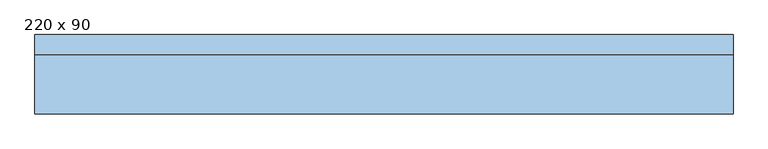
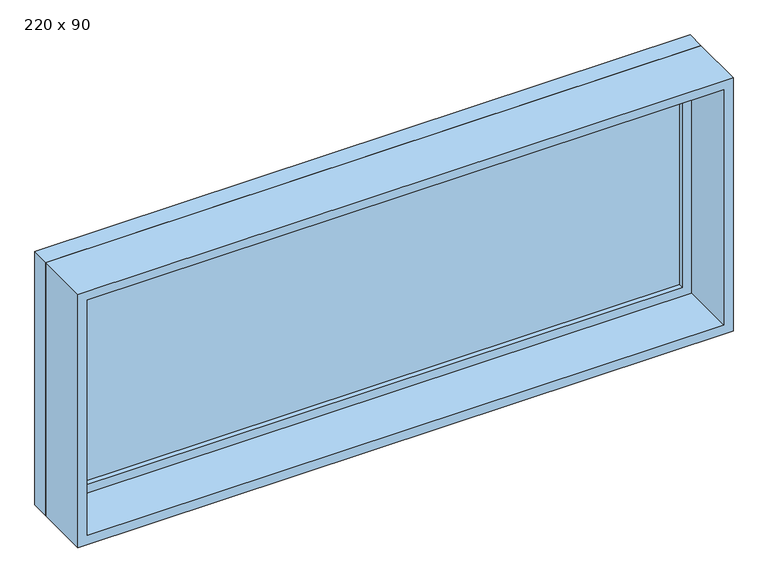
"""IFC4 building model written with IfcOpenShell, lengths in millimetres: window geometry, M_Fixado : 220 x 90."""

import ifcopenshell
import ifcopenshell.guid

model = None  # the IFC model being written
_history = None  # IfcOwnerHistory: only IFC2X3 demands one
_inside = {}  # id of a spatial element -> (the spatial element, [elements in it])
_under = {}  # id of a project, library or spatial element -> (it, [spatial elements below it])
_declared = {}  # id of a project -> (the project, [libraries it declares])
_typed = {}  # id of a type object -> (the type object, [elements of that type])
_made_of = {}  # id of a material, layer set ... -> (it, [elements and type objects made of it])


def new_model(schema):
    """Start an empty IFC model of exactly this schema.

    Asked for "IFC4X3", IfcOpenShell would pick the latest addendum, in which some entities
    have other attributes; the version numbers below select the first issue.
    IFC2X3 requires an IfcOwnerHistory on every rooted entity: one is made here for all.
    """
    global model, _history
    if schema == "IFC4X3":
        model = ifcopenshell.file(schema_version=(4, 3, 0, 0))
    else:
        model = ifcopenshell.file(schema=schema)
    _inside.clear()
    _under.clear()
    _declared.clear()
    _typed.clear()
    _made_of.clear()
    _history = None
    if model.schema == "IFC2X3":
        org = make("IfcOrganization", Name="unknown")
        user = make(
            "IfcPersonAndOrganization",
            ThePerson=make("IfcPerson", FamilyName="unknown"),
            TheOrganization=org,
        )
        app = make(
            "IfcApplication",
            ApplicationDeveloper=org,
            Version="unknown",
            ApplicationFullName="unknown",
            ApplicationIdentifier="unknown",
        )
        _history = make(
            "IfcOwnerHistory",
            OwningUser=user,
            OwningApplication=app,
            ChangeAction="ADDED",
            CreationDate=0,
        )
    return model


def make(cls, **values):
    """One entity of the class cls with the attributes given. An attribute that is None is left unset."""
    return model.create_entity(
        cls, **{name: value for name, value in values.items() if value is not None}
    )


def rooted(cls, **values):
    """An entity with a GlobalId (a new one), such as an element, a storey or a relation."""
    return make(cls, GlobalId=ifcopenshell.guid.new(), OwnerHistory=_history, **values)


def si_unit(unit_type, name, prefix=None):
    """IfcSIUnit, for example si_unit("LENGTHUNIT", "METRE", prefix="MILLI")."""
    return make("IfcSIUnit", UnitType=unit_type, Prefix=prefix, Name=name)


def assignment(units):
    """IfcUnitAssignment: the units of a project."""
    return None if units is None else make("IfcUnitAssignment", Units=units)


def point(xyz):
    """IfcCartesianPoint."""
    return None if xyz is None else make("IfcCartesianPoint", Coordinates=xyz)


def direction(xyz):
    """IfcDirection."""
    return None if xyz is None else make("IfcDirection", DirectionRatios=xyz)


def frame(location, z_axis=None, x_axis=None):
    """IfcAxis2Placement3D, a coordinate frame: its origin and axes. An axis left out is left unset."""
    return make(
        "IfcAxis2Placement3D",
        Location=point(location),
        Axis=direction(z_axis),
        RefDirection=direction(x_axis),
    )


def origin():
    """The frame at (0, 0, 0) with its axes left unset."""
    return frame((0.0, 0.0, 0.0))


def place(relative_to, where):
    """IfcLocalPlacement: puts the frame where relative to a parent placement (None: the world)."""
    return make(
        "IfcLocalPlacement", PlacementRelTo=relative_to, RelativePlacement=where
    )


def context(
    kind, dimensions, precision=None, world=None, true_north=None, identifier=None
):
    """IfcGeometricRepresentationContext, for example the 3D "Model" context."""
    return make(
        "IfcGeometricRepresentationContext",
        ContextIdentifier=identifier,
        ContextType=kind,
        CoordinateSpaceDimension=dimensions,
        Precision=precision,
        WorldCoordinateSystem=world,
        TrueNorth=true_north,
    )


def project(units=None, contexts=None):
    """IfcProject with its units and contexts."""
    return rooted(
        "IfcProject",
        Name="project",
        RepresentationContexts=contexts,
        UnitsInContext=assignment(units),
    )


def spatial(cls, under=None, at=None, **own):
    """A site, building, storey or space (cls), placed at a placement, below another one or the project."""
    s = rooted(cls, ObjectPlacement=at, **own)
    if under is not None:
        _under.setdefault(under.id(), (under, []))[1].append(s)
    return s


def polyline(points):
    """IfcPolyline through the points."""
    return make("IfcPolyline", Points=[point(p) for p in points])


def outline(outer, holes=None, kind="AREA"):
    """IfcArbitraryClosedProfileDef: a profile drawn as a closed curve; with holes, ...WithVoids."""
    if holes is None:
        return make("IfcArbitraryClosedProfileDef", ProfileType=kind, OuterCurve=outer)
    return make(
        "IfcArbitraryProfileDefWithVoids",
        ProfileType=kind,
        OuterCurve=outer,
        InnerCurves=holes,
    )


def extrude(swept, where, along, depth):
    """IfcExtrudedAreaSolid: the profile swept, set in the frame where, extruded along a direction by depth."""
    return make(
        "IfcExtrudedAreaSolid",
        SweptArea=swept,
        Position=where,
        ExtrudedDirection=direction(along),
        Depth=depth,
    )


def shape(context_of_items, identifier, shape_type, items):
    """IfcShapeRepresentation: the items that make up one representation, for example the "Body"."""
    return make(
        "IfcShapeRepresentation",
        ContextOfItems=context_of_items,
        RepresentationIdentifier=identifier,
        RepresentationType=shape_type,
        Items=items,
    )


def source(mapping_origin, context_of_items, identifier, shape_type, items):
    """IfcRepresentationMap: a shape defined once, which mapped items show again and again."""
    return make(
        "IfcRepresentationMap",
        MappingOrigin=mapping_origin,
        MappedRepresentation=shape(context_of_items, identifier, shape_type, items),
    )


def transform(
    local_origin,
    x_axis=None,
    y_axis=None,
    z_axis=None,
    scale=None,
    scale2=None,
    scale3=None,
    uniform=True,
):
    """IfcCartesianTransformationOperator3D, or its non-uniform kind. x_axis, y_axis, z_axis: its Axis1, 2, 3."""
    if uniform:
        return make(
            "IfcCartesianTransformationOperator3D",
            Axis1=direction(x_axis),
            Axis2=direction(y_axis),
            LocalOrigin=point(local_origin),
            Scale=scale,
            Axis3=direction(z_axis),
        )
    return make(
        "IfcCartesianTransformationOperator3DnonUniform",
        Axis1=direction(x_axis),
        Axis2=direction(y_axis),
        LocalOrigin=point(local_origin),
        Scale=scale,
        Axis3=direction(z_axis),
        Scale2=scale2,
        Scale3=scale3,
    )


def mapped(mapping_source, mapping_target):
    """IfcMappedItem: shows the shape of a source again, moved by a transform."""
    return make(
        "IfcMappedItem", MappingSource=mapping_source, MappingTarget=mapping_target
    )


def made_of(thing, what):
    """Note that an element or type object is made of a material, layer set ...; save() writes the relation."""
    if what is not None:
        _made_of.setdefault(what.id(), (what, []))[1].append(thing)
    return thing


def element(
    cls,
    number,
    at=None,
    inside=None,
    cuts=None,
    type_object=None,
    material=None,
    context=None,
    identifier="Body",
    shape_type=None,
    held_by="IfcProductDefinitionShape",
    body=None,
    shapes=None,
    **own,
):
    """One element of the class cls, such as IfcWall. Its Tag is "e" and its number.

    at: its placement. inside: the storey or other place that contains it. cuts: it is an
    opening in that element (IfcRelVoidsElement). A single representation is given by context,
    identifier, shape_type and body (its items); several are given by shapes. held_by: the class
    of the entity that holds the representations. save() writes the other relations.
    """
    e = rooted(cls, Tag="e%d" % number, ObjectPlacement=at, **own)
    if body is not None:
        shapes = [shape(context, identifier, shape_type, body)]
    if shapes is not None:
        e.Representation = make(held_by, Representations=shapes)
    if inside is not None:
        _inside.setdefault(inside.id(), (inside, []))[1].append(e)
    if cuts is not None:
        rooted(
            "IfcRelVoidsElement", RelatingBuildingElement=cuts, RelatedOpeningElement=e
        )
    if type_object is not None:
        _typed.setdefault(type_object.id(), (type_object, []))[1].append(e)
    return made_of(e, material)


def aggregate(whole, parts):
    """IfcRelAggregates: a whole, such as a stair, and the parts it consists of."""
    return rooted("IfcRelAggregates", RelatingObject=whole, RelatedObjects=parts)


def save(model, path):
    """Write the relations noted so far, then the file.

    IfcRelAggregates (storeys below a building ...), IfcRelContainedInSpatialStructure (elements
    in a storey), IfcRelDefinesByType, IfcRelAssociatesMaterial and IfcRelDeclares: one each for
    every whole, place, type object, material and project.
    """
    for whole, parts in _under.values():
        aggregate(whole, parts)
    for where, things in _inside.values():
        rooted(
            "IfcRelContainedInSpatialStructure",
            RelatedElements=things,
            RelatingStructure=where,
        )
    for kind, things in _typed.values():
        rooted("IfcRelDefinesByType", RelatedObjects=things, RelatingType=kind)
    for what, things in _made_of.values():
        rooted("IfcRelAssociatesMaterial", RelatedObjects=things, RelatingMaterial=what)
    for by, libraries in _declared.values():
        rooted("IfcRelDeclares", RelatingContext=by, RelatedDefinitions=libraries)
    model.write(path)


def window_220_x_90_cea65aae(model_context):
    return source(origin(), model_context, "Body", "SweptSolid", [
        extrude(outline(polyline([(-1037.0, 103.0), (1037.0, 103.0), (1037.0, 91.0), (-1037.0, 91.0), (-1037.0, 103.0)])), frame((0.0, 0.0, 978.0), z_axis=(0.0, 0.0, 1.0), x_axis=(1.0, 0.0, 0.0)), (0.0, 0.0, 1.0), 774.0),
        extrude(outline(polyline([(1796.0, -1081.0), (934.0, -1081.0), (934.0, 1081.0), (1796.0, 1081.0), (1796.0, -1081.0)]), holes=[polyline([(1752.0, -1037.0), (1752.0, 1037.0), (978.0, 1037.0), (978.0, -1037.0), (1752.0, -1037.0)])]), frame((0.0, 75.0, 0.0), z_axis=(0.0, 1.0, 0.0), x_axis=(0.0, 0.0, 1.0)), (0.0, 0.0, 1.0), 44.0),
        extrude(outline(polyline([(1815.0, -1100.0), (915.0, -1100.0), (915.0, 1100.0), (1815.0, 1100.0), (1815.0, -1100.0)]), holes=[polyline([(1796.0, -1081.0), (1796.0, 1081.0), (934.0, 1081.0), (934.0, -1081.0), (1796.0, -1081.0)])]), frame((0.0, 75.0, 0.0), z_axis=(0.0, 1.0, 0.0), x_axis=(0.0, 0.0, 1.0)), (0.0, 0.0, 1.0), 63.0),
        extrude(outline(polyline([(1815.0, -1100.0), (915.0, -1100.0), (915.0, 1100.0), (1815.0, 1100.0), (1815.0, -1100.0)]), holes=[polyline([(1783.0, -1068.0), (1783.0, 1068.0), (947.0, 1068.0), (947.0, -1068.0), (1783.0, -1068.0)])]), frame((0.0, -112.0, 0.0), z_axis=(0.0, 1.0, 0.0), x_axis=(0.0, 0.0, 1.0)), (0.0, 0.0, 1.0), 187.0),
    ])


if __name__ == "__main__":
    model = new_model("IFC4")
    model_context = context("Model", 3, world=origin())
    ifc_project = project(units=[si_unit("LENGTHUNIT", "METRE", prefix="MILLI")], contexts=[model_context])
    site = spatial("IfcSite", under=ifc_project)
    building = spatial("IfcBuilding", under=site)
    placement = place(None, origin())
    window_220_x_90_shape = window_220_x_90_cea65aae(model_context)
    element("IfcWindow", 1, ObjectType="M_Fixado : 220 x 90", at=placement, inside=building, context=model_context, shape_type="MappedRepresentation", body=[
        mapped(window_220_x_90_shape, transform((0.0, 0.0, 0.0), x_axis=(1.0, 0.0, 0.0), y_axis=(0.0, 1.0, 0.0), z_axis=(0.0, 0.0, 1.0))),
    ])
    save(model, "model.ifc")
